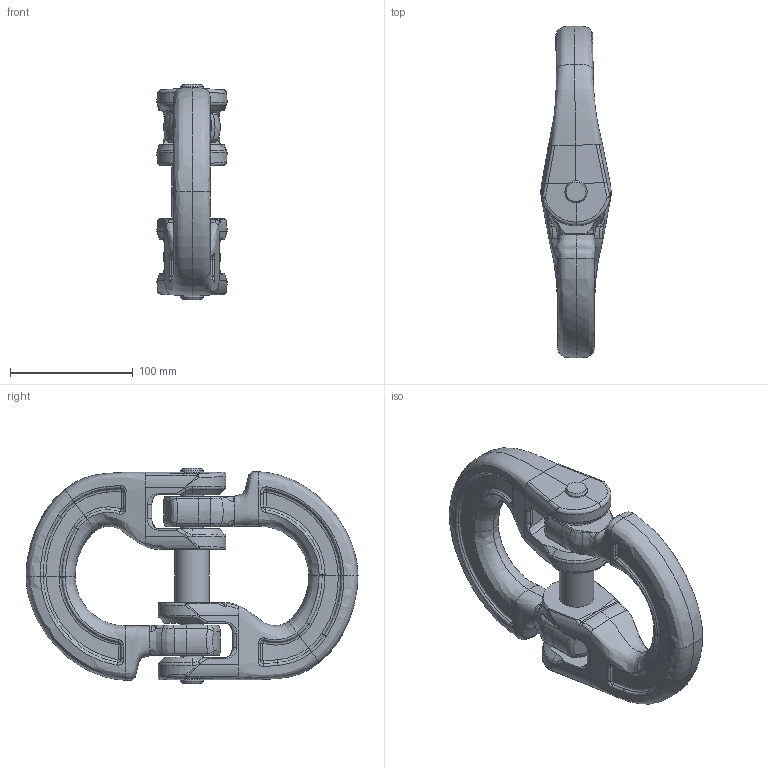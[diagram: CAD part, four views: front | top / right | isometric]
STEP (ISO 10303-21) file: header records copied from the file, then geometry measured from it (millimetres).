
FILE_DESCRIPTION(/* description */ (''),/* implementation_level */ '2;1');
FILE_NAME(/* name */ 'CW 26 Kundenmodell',/* time_stamp */ '2010-01-05T11:34:58+01:00',/* author */ (''),/* organization */ (''),/* preprocessor_version */ 'ST-DEVELOPER v9',/* originating_system */ 'UGS - NX 4.0',/* authorisation */ '');
FILE_SCHEMA (('AUTOMOTIVE_DESIGN { 1 0 10303 214 1 1 1 1 }'));
Length unit declared in the file: millimetre
Products named in the file (1): rit3AA4rfoc
Bounding box: 57.01 x 269.99 x 175 mm (x, y, z)
Volume: 879519.9 mm3; surface area: 134334.1 mm2
Topology: 4 solids, 4 shells, 471 faces, 1143 edges, 654 vertices
Faces by surface type: bspline 288, cylinder 59, sphere 48, plane 38, cone 30, torus 8
Full cylindrical faces by diameter (mm): 18 x8, 28 x1
Entity records: 39133 total; most frequent: CARTESIAN_POINT 30476, ORIENTED_EDGE 2208, DIRECTION 1202, EDGE_CURVE 1104, VERTEX_POINT 650, B_SPLINE_CURVE_WITH_KNOTS 628, AXIS2_PLACEMENT_3D 550, EDGE_LOOP 494
